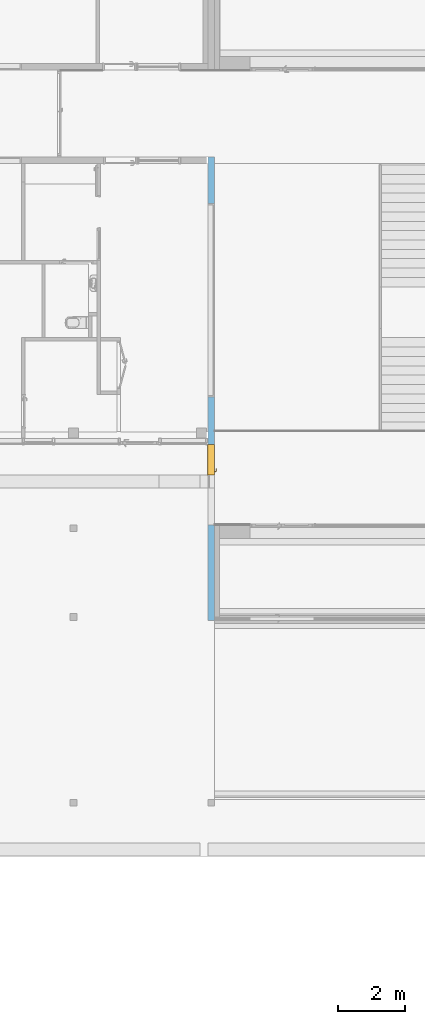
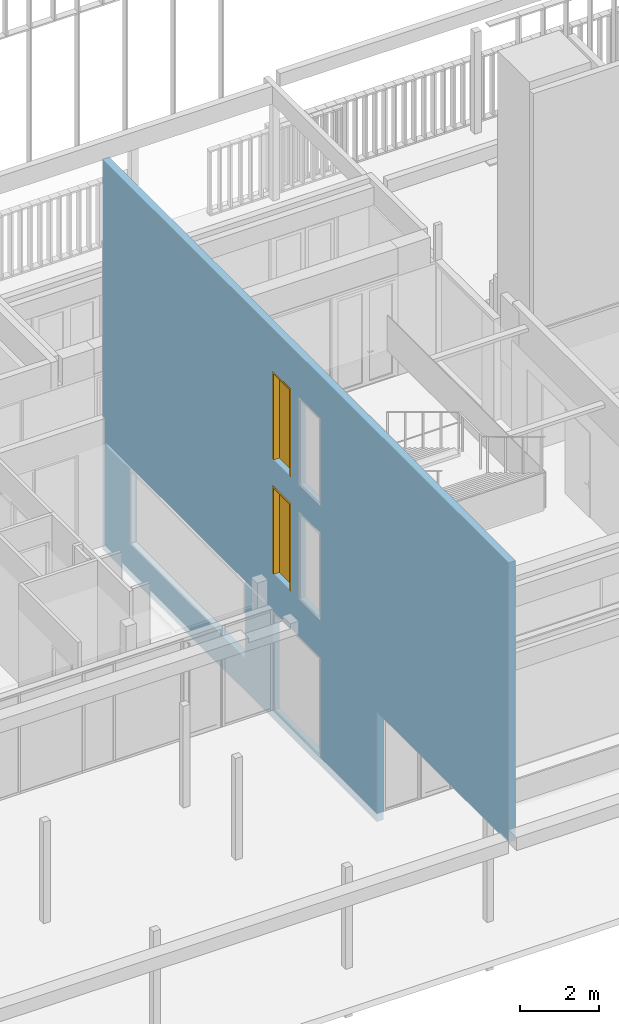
"""IFC2X3 building model written with IfcOpenShell, lengths in centimetres."""

import ifcopenshell
import ifcopenshell.guid

model = None  # the IFC model being written
_history = None  # IfcOwnerHistory: only IFC2X3 demands one
_inside = {}  # id of a spatial element -> (the spatial element, [elements in it])
_under = {}  # id of a project, library or spatial element -> (it, [spatial elements below it])
_declared = {}  # id of a project -> (the project, [libraries it declares])
_typed = {}  # id of a type object -> (the type object, [elements of that type])
_made_of = {}  # id of a material, layer set ... -> (it, [elements and type objects made of it])


def new_model(schema):
    """Start an empty IFC model of exactly this schema.

    Asked for "IFC4X3", IfcOpenShell would pick the latest addendum, in which some entities
    have other attributes; the version numbers below select the first issue.
    IFC2X3 requires an IfcOwnerHistory on every rooted entity: one is made here for all.
    """
    global model, _history
    if schema == "IFC4X3":
        model = ifcopenshell.file(schema_version=(4, 3, 0, 0))
    else:
        model = ifcopenshell.file(schema=schema)
    _inside.clear()
    _under.clear()
    _declared.clear()
    _typed.clear()
    _made_of.clear()
    _history = None
    if model.schema == "IFC2X3":
        org = make("IfcOrganization", Name="unknown")
        user = make(
            "IfcPersonAndOrganization",
            ThePerson=make("IfcPerson", FamilyName="unknown"),
            TheOrganization=org,
        )
        app = make(
            "IfcApplication",
            ApplicationDeveloper=org,
            Version="unknown",
            ApplicationFullName="unknown",
            ApplicationIdentifier="unknown",
        )
        _history = make(
            "IfcOwnerHistory",
            OwningUser=user,
            OwningApplication=app,
            ChangeAction="ADDED",
            CreationDate=0,
        )
    return model


def make(cls, **values):
    """One entity of the class cls with the attributes given. An attribute that is None is left unset."""
    return model.create_entity(
        cls, **{name: value for name, value in values.items() if value is not None}
    )


def entity(cls, *values):
    """Any entity or typed value of the class cls, its attributes in the order of the schema. None: left unset."""
    e = model.create_entity(cls)
    for i, value in enumerate(values):
        if value is not None:
            e[i] = value
    return e


def rooted(cls, **values):
    """An entity with a GlobalId (a new one), such as an element, a storey or a relation."""
    return make(cls, GlobalId=ifcopenshell.guid.new(), OwnerHistory=_history, **values)


def si_unit(unit_type, name, prefix=None):
    """IfcSIUnit, for example si_unit("LENGTHUNIT", "METRE", prefix="MILLI")."""
    return make("IfcSIUnit", UnitType=unit_type, Prefix=prefix, Name=name)


def converted_unit(unit_type, name, factor, base, dimensions=None, offset=None):
    """IfcConversionBasedUnit, such as the inch: factor (a typed value) times the base unit."""
    return make(
        "IfcConversionBasedUnit"
        if offset is None
        else "IfcConversionBasedUnitWithOffset",
        ConversionOffset=offset,
        Dimensions=None
        if dimensions is None
        else entity("IfcDimensionalExponents", *dimensions),
        UnitType=unit_type,
        Name=name,
        ConversionFactor=make(
            "IfcMeasureWithUnit", ValueComponent=factor, UnitComponent=base
        ),
    )


def derived_unit(unit_type, elements):
    """IfcDerivedUnit: a product of units, each with its exponent."""
    return make(
        "IfcDerivedUnit",
        Elements=[
            make("IfcDerivedUnitElement", Unit=unit, Exponent=power)
            for unit, power in elements
        ],
        UnitType=unit_type,
    )


def assignment(units):
    """IfcUnitAssignment: the units of a project."""
    return None if units is None else make("IfcUnitAssignment", Units=units)


def point(xyz):
    """IfcCartesianPoint."""
    return None if xyz is None else make("IfcCartesianPoint", Coordinates=xyz)


def direction(xyz):
    """IfcDirection."""
    return None if xyz is None else make("IfcDirection", DirectionRatios=xyz)


def frame(location, z_axis=None, x_axis=None):
    """IfcAxis2Placement3D, a coordinate frame: its origin and axes. An axis left out is left unset."""
    return make(
        "IfcAxis2Placement3D",
        Location=point(location),
        Axis=direction(z_axis),
        RefDirection=direction(x_axis),
    )


def frame_2d(location, x_axis=None):
    """IfcAxis2Placement2D, a coordinate frame in the plane: its origin and x axis."""
    return make(
        "IfcAxis2Placement2D", Location=point(location), RefDirection=direction(x_axis)
    )


def origin():
    """The frame at (0, 0, 0) with its axes left unset."""
    return frame((0.0, 0.0, 0.0))


def place(relative_to, where):
    """IfcLocalPlacement: puts the frame where relative to a parent placement (None: the world)."""
    return make(
        "IfcLocalPlacement", PlacementRelTo=relative_to, RelativePlacement=where
    )


def context(
    kind, dimensions, precision=None, world=None, true_north=None, identifier=None
):
    """IfcGeometricRepresentationContext, for example the 3D "Model" context."""
    return make(
        "IfcGeometricRepresentationContext",
        ContextIdentifier=identifier,
        ContextType=kind,
        CoordinateSpaceDimension=dimensions,
        Precision=precision,
        WorldCoordinateSystem=world,
        TrueNorth=true_north,
    )


def subcontext(parent, identifier, kind, view, scale=None):
    """IfcGeometricRepresentationSubContext, for example "Body" below "Model"."""
    return make(
        "IfcGeometricRepresentationSubContext",
        ContextIdentifier=identifier,
        ContextType=kind,
        ParentContext=parent,
        TargetScale=scale,
        TargetView=view,
    )


def project(units=None, contexts=None):
    """IfcProject with its units and contexts."""
    return rooted(
        "IfcProject",
        Name="project",
        RepresentationContexts=contexts,
        UnitsInContext=assignment(units),
    )


def spatial(cls, under=None, at=None, **own):
    """A site, building, storey or space (cls), placed at a placement, below another one or the project."""
    s = rooted(cls, ObjectPlacement=at, **own)
    if under is not None:
        _under.setdefault(under.id(), (under, []))[1].append(s)
    return s


def profile(cls, at=None, kind="AREA", **sizes):
    """A parametric profile (cls). Its sizes go by their IFC names, for example OverallWidth=200.0."""
    return make(cls, ProfileType=kind, Position=at, **sizes)


def rectangle(**sizes):
    """IfcRectangleProfileDef."""
    return profile("IfcRectangleProfileDef", **sizes)


def extrude(swept, where, along, depth):
    """IfcExtrudedAreaSolid: the profile swept, set in the frame where, extruded along a direction by depth."""
    return make(
        "IfcExtrudedAreaSolid",
        SweptArea=swept,
        Position=where,
        ExtrudedDirection=direction(along),
        Depth=depth,
    )


def faces_of(points, faces, orient=None, outer=None):
    """IfcFace entities. A face is a list of loops; a loop is a list of indices into points, from 0.

    orient and outer hold one flag for each loop. By default every Orientation is true, the
    first loop of a face is its IfcFaceOuterBound and the others are IfcFaceBound.
    """
    made = []
    for i, loops in enumerate(faces):
        bounds = []
        for j, loop in enumerate(loops):
            is_outer = j == 0 if outer is None else outer[i][j]
            bounds.append(
                make(
                    "IfcFaceOuterBound" if is_outer else "IfcFaceBound",
                    Bound=make("IfcPolyLoop", Polygon=[points[k] for k in loop]),
                    Orientation=True if orient is None else orient[i][j],
                )
            )
        made.append(make("IfcFace", Bounds=bounds))
    return made


def faceted_brep(points, faces, orient=None, outer=None, voids=None):
    """IfcFacetedBrep: a solid bounded by flat faces; with voids (closed shells), ...WithVoids."""
    shared = [point(p) for p in points]
    hull = make("IfcClosedShell", CfsFaces=faces_of(shared, faces, orient, outer))
    if voids is None:
        return make("IfcFacetedBrep", Outer=hull)
    return make(
        "IfcFacetedBrepWithVoids",
        Outer=hull,
        Voids=[
            make(cls, CfsFaces=faces_of(shared, fs, o, b)) for cls, fs, o, b in voids
        ],
    )


def shape(context_of_items, identifier, shape_type, items):
    """IfcShapeRepresentation: the items that make up one representation, for example the "Body"."""
    return make(
        "IfcShapeRepresentation",
        ContextOfItems=context_of_items,
        RepresentationIdentifier=identifier,
        RepresentationType=shape_type,
        Items=items,
    )


def source(mapping_origin, context_of_items, identifier, shape_type, items):
    """IfcRepresentationMap: a shape defined once, which mapped items show again and again."""
    return make(
        "IfcRepresentationMap",
        MappingOrigin=mapping_origin,
        MappedRepresentation=shape(context_of_items, identifier, shape_type, items),
    )


def transform(
    local_origin,
    x_axis=None,
    y_axis=None,
    z_axis=None,
    scale=None,
    scale2=None,
    scale3=None,
    uniform=True,
):
    """IfcCartesianTransformationOperator3D, or its non-uniform kind. x_axis, y_axis, z_axis: its Axis1, 2, 3."""
    if uniform:
        return make(
            "IfcCartesianTransformationOperator3D",
            Axis1=direction(x_axis),
            Axis2=direction(y_axis),
            LocalOrigin=point(local_origin),
            Scale=scale,
            Axis3=direction(z_axis),
        )
    return make(
        "IfcCartesianTransformationOperator3DnonUniform",
        Axis1=direction(x_axis),
        Axis2=direction(y_axis),
        LocalOrigin=point(local_origin),
        Scale=scale,
        Axis3=direction(z_axis),
        Scale2=scale2,
        Scale3=scale3,
    )


def mapped(mapping_source, mapping_target):
    """IfcMappedItem: shows the shape of a source again, moved by a transform."""
    return make(
        "IfcMappedItem", MappingSource=mapping_source, MappingTarget=mapping_target
    )


def material(Name=None, Category=None):
    """IfcMaterial."""
    return make("IfcMaterial", Name=Name, Category=Category)


def material_list(materials):
    """IfcMaterialList."""
    return make("IfcMaterialList", Materials=materials)


def layer(
    of_material, thickness, ventilated=None, Name=None, Category=None, Priority=None
):
    """IfcMaterialLayer: one layer of a wall or slab, of a material (None: an air gap)."""
    return make(
        "IfcMaterialLayer",
        Material=of_material,
        LayerThickness=thickness,
        IsVentilated=ventilated,
        Name=Name,
        Category=Category,
        Priority=Priority,
    )


def layer_set(layers, Name=None):
    """IfcMaterialLayerSet."""
    return make("IfcMaterialLayerSet", MaterialLayers=layers, LayerSetName=Name)


def made_of(thing, what):
    """Note that an element or type object is made of a material, layer set ...; save() writes the relation."""
    if what is not None:
        _made_of.setdefault(what.id(), (what, []))[1].append(thing)
    return thing


def type_object(cls, material=None, **own):
    """A type object (cls), such as IfcWallType, which elements share."""
    return made_of(rooted(cls, **own), material)


def type_shapes(of_type, sources):
    """Give a type object the sources (RepresentationMaps) that its elements show as mapped items."""
    of_type.RepresentationMaps = sources


def element(
    cls,
    number,
    at=None,
    inside=None,
    cuts=None,
    type_object=None,
    material=None,
    context=None,
    identifier="Body",
    shape_type=None,
    held_by="IfcProductDefinitionShape",
    body=None,
    shapes=None,
    **own,
):
    """One element of the class cls, such as IfcWall. Its Tag is "e" and its number.

    at: its placement. inside: the storey or other place that contains it. cuts: it is an
    opening in that element (IfcRelVoidsElement). A single representation is given by context,
    identifier, shape_type and body (its items); several are given by shapes. held_by: the class
    of the entity that holds the representations. save() writes the other relations.
    """
    e = rooted(cls, Tag="e%d" % number, ObjectPlacement=at, **own)
    if body is not None:
        shapes = [shape(context, identifier, shape_type, body)]
    if shapes is not None:
        e.Representation = make(held_by, Representations=shapes)
    if inside is not None:
        _inside.setdefault(inside.id(), (inside, []))[1].append(e)
    if cuts is not None:
        rooted(
            "IfcRelVoidsElement", RelatingBuildingElement=cuts, RelatedOpeningElement=e
        )
    if type_object is not None:
        _typed.setdefault(type_object.id(), (type_object, []))[1].append(e)
    return made_of(e, material)


def fill(opening, filler):
    """IfcRelFillsElement: the door or window that sits in an opening."""
    return rooted(
        "IfcRelFillsElement",
        RelatingOpeningElement=opening,
        RelatedBuildingElement=filler,
    )


def aggregate(whole, parts):
    """IfcRelAggregates: a whole, such as a stair, and the parts it consists of."""
    return rooted("IfcRelAggregates", RelatingObject=whole, RelatedObjects=parts)


def save(model, path):
    """Write the relations noted so far, then the file.

    IfcRelAggregates (storeys below a building ...), IfcRelContainedInSpatialStructure (elements
    in a storey), IfcRelDefinesByType, IfcRelAssociatesMaterial and IfcRelDeclares: one each for
    every whole, place, type object, material and project.
    """
    for whole, parts in _under.values():
        aggregate(whole, parts)
    for where, things in _inside.values():
        rooted(
            "IfcRelContainedInSpatialStructure",
            RelatedElements=things,
            RelatingStructure=where,
        )
    for kind, things in _typed.values():
        rooted("IfcRelDefinesByType", RelatedObjects=things, RelatingType=kind)
    for what, things in _made_of.values():
        rooted("IfcRelAssociatesMaterial", RelatedObjects=things, RelatingMaterial=what)
    for by, libraries in _declared.values():
        rooted("IfcRelDeclares", RelatingContext=by, RelatedDefinitions=libraries)
    model.write(path)


model = new_model("IFC2X3")

# Units and contexts
model_context = context("Model", 3, precision=0.001, world=origin(), true_north=direction((6.12303176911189e-17, 1.0)))
body_context = subcontext(model_context, "Body", "Model", "MODEL_VIEW")
ifc_project = project(units=[si_unit("LENGTHUNIT", "METRE", prefix="CENTI"), si_unit("AREAUNIT", "SQUARE_METRE"), si_unit("VOLUMEUNIT", "CUBIC_METRE"), converted_unit("PLANEANGLEUNIT", "DEGREE", entity("IfcRatioMeasure", 0.0174532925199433), si_unit("PLANEANGLEUNIT", "RADIAN"), dimensions=[0, 0, 0, 0, 0, 0, 0]), si_unit("MASSUNIT", "GRAM", prefix="KILO"), derived_unit("MASSDENSITYUNIT", [(si_unit("MASSUNIT", "GRAM", prefix="KILO"), 1), (si_unit("LENGTHUNIT", "METRE"), -3)]), si_unit("TIMEUNIT", "SECOND"), si_unit("FREQUENCYUNIT", "HERTZ"), si_unit("THERMODYNAMICTEMPERATUREUNIT", "DEGREE_CELSIUS"), derived_unit("THERMALTRANSMITTANCEUNIT", [(si_unit("MASSUNIT", "GRAM", prefix="KILO"), 1), (si_unit("THERMODYNAMICTEMPERATUREUNIT", "KELVIN"), -1), (si_unit("TIMEUNIT", "SECOND"), -3)]), derived_unit("VOLUMETRICFLOWRATEUNIT", [(si_unit("LENGTHUNIT", "METRE"), 3), (si_unit("TIMEUNIT", "SECOND"), -1)]), si_unit("ELECTRICCURRENTUNIT", "AMPERE"), si_unit("ELECTRICVOLTAGEUNIT", "VOLT"), si_unit("POWERUNIT", "WATT"), si_unit("FORCEUNIT", "NEWTON", prefix="KILO"), si_unit("ILLUMINANCEUNIT", "LUX"), si_unit("LUMINOUSFLUXUNIT", "LUMEN"), si_unit("LUMINOUSINTENSITYUNIT", "CANDELA"), derived_unit("USERDEFINED", [(si_unit("MASSUNIT", "GRAM", prefix="KILO"), -1), (si_unit("LENGTHUNIT", "METRE"), -2), (si_unit("TIMEUNIT", "SECOND"), 3), (si_unit("LUMINOUSFLUXUNIT", "LUMEN"), 1)]), derived_unit("LINEARVELOCITYUNIT", [(si_unit("LENGTHUNIT", "METRE"), 1), (si_unit("TIMEUNIT", "SECOND"), -1)]), si_unit("PRESSUREUNIT", "PASCAL"), derived_unit("USERDEFINED", [(si_unit("LENGTHUNIT", "METRE"), -2), (si_unit("MASSUNIT", "GRAM", prefix="KILO"), 1), (si_unit("TIMEUNIT", "SECOND"), -2)])], contexts=[model_context])

# Site, building, storey
site_placement = place(None, frame((-2781.94577612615, 7442.24238424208, 0.0)))
site = spatial("IfcSite", under=ifc_project, at=site_placement, Name="Default", CompositionType="ELEMENT")
building_placement = place(site_placement, origin())
building = spatial("IfcBuilding", under=site, at=building_placement, CompositionType="ELEMENT")
storey_1_placement = place(building_placement, origin())
storey_1 = spatial("IfcBuildingStorey", under=building, at=storey_1_placement, Name="N00 - COO", CompositionType="ELEMENT", Elevation=0.0)

# Wall, openings
ifc_material_1 = material(Name="01 - Maçonnerie")
ifc_layer = layer(ifc_material_1, 20.0)
ifc_layer_set = layer_set([ifc_layer], Name="Mur de base:04 - Structure - béton - 20cm")
wall_type = type_object("IfcWallType", Name="Mur de base:04 - Structure - béton - 20cm", PredefinedType="STANDARD", material=ifc_layer_set)
wall_placement = place(building_placement, frame((-4777.99987760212, -3140.31349958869, -26.0), z_axis=(0.0, 0.0, 1.0), x_axis=(0.0, 1.0, 0.0)))
wall = element("IfcWall", 1, at=wall_placement, inside=storey_1, type_object=wall_type, Name="Mur de base:04 - Structure - béton - 20cm", ObjectType="Mur de base:04 - Structure - béton - 20cm", context=body_context, shape_type="Brep", body=[
    faceted_brep([(1190.23446594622, -10.0, 332.0), (1190.23446594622, -10.0, 26.0), (950.156932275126, -10.0, 26.0), (950.156932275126, -10.0, 332.0), (1060.19064453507, -10.0, 1070.0), (1060.19064453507, -10.0, 800.0), (950.156932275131, -10.0, 800.0), (950.15693227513, -10.0, 1070.0), (950.15693227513, -10.0, 448.0), (950.15693227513, -10.0, 718.0), (1060.19064453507, -10.0, 718.0), (1060.19064453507, -10.0, 448.0), (1332.23446594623, -10.0, 101.0), (1332.23446594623, -10.0, 332.0), (1911.46036523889, -10.0, 332.0), (1911.46036523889, -10.0, 101.0), (1190.33446594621, -10.0, 1070.0), (1190.33446594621, -10.0, 800.0), (1100.33446594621, -10.0, 800.0), (1100.33446594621, -10.0, 1070.0), (1190.23446594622, -10.0, 718.0), (1190.23446594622, -10.0, 448.0), (1100.23446594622, -10.0, 448.0), (1100.23446594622, -10.0, 718.0), (665.156932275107, -10.0, 0.0), (684.156932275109, -10.0, 0.0), (2050.0, -10.0, 0.0), (2050.0, -10.0, 417.0), (2050.0, -10.0, 448.0), (2050.0, -10.0, 769.0), (2050.0, -10.0, 800.0), (2050.0, -10.0, 1197.0), (2050.0, -10.0, 1202.0), (1256.17297987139, -10.0, 1202.0), (146.0, -10.0, 1202.0), (130.0, -10.0, 1202.0), (110.0, -10.0, 1202.0), (90.0, -10.0, 1202.0), (0.0, -10.0, 1202.0), (0.0, -10.0, 339.0), (665.156932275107, -10.0, 339.0), (1190.23446594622, 10.0, 26.0), (1190.23446594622, 10.0, 332.0), (950.156932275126, 10.0, 332.0), (950.156932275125, 10.0, 26.0), (950.15693227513, 10.0, 718.0), (950.15693227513, 10.0, 448.0), (1060.19064453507, 10.0, 448.0), (1060.19064453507, 10.0, 718.0), (1060.19064453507, 10.0, 800.0), (1060.19064453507, 10.0, 1070.0), (950.156932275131, 10.0, 1070.0), (950.15693227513, 10.0, 800.0), (1332.23446594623, 10.0, 332.0), (1332.23446594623, 10.0, 101.0), (1911.46036523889, 10.0, 101.0), (1911.46036523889, 10.0, 332.0), (2030.31349968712, 10.0, 332.0), (2030.31349968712, 10.0, 339.0), (1235.23446594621, 10.0, 339.0), (1228.9244659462, 10.0, 339.0), (1228.9244659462, 10.0, 332.0), (1190.33446594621, 10.0, 800.0), (1190.33446594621, 10.0, 1070.0), (1100.33446594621, 10.0, 1070.0), (1100.33446594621, 10.0, 800.0), (1190.23446594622, 10.0, 448.0), (1190.23446594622, 10.0, 531.5), (1190.23446594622, 10.0, 718.0), (1100.23446594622, 10.0, 718.0), (1100.23446594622, 10.0, 448.0), (2050.0, 10.0, 0.0), (684.156932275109, 10.0, 0.0), (665.156932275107, 10.0, 0.0), (665.156932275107, 10.0, 339.0), (0.0, 10.0, 339.0), (0.0, 10.0, 1202.0), (1190.23446594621, 10.0, 1202.0), (1210.23446594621, 10.0, 1202.0), (1256.17297987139, 10.0, 1202.0), (2050.0, 10.0, 1202.0), (2050.0, 10.0, 1197.0), (2050.0, 10.0, 1172.0), (2050.0, 10.0, 1126.0), (1332.23446594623, -8.49999999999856, 332.0), (1911.46036523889, -8.49999999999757, 332.0), (2030.31349968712, -8.49999999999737, 339.0), (1228.9244659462, -8.49999999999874, 339.0), (2030.31349968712, -8.49999999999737, 332.0), (1228.9244659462, -8.49999999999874, 332.0)], [[[0, 1, 2, 3], [4, 5, 6, 7], [8, 9, 10, 11], [12, 13, 14, 15], [16, 17, 18, 19], [20, 21, 22, 23], [24, 25, 26, 27, 28, 29, 30, 31, 32, 33, 34, 35, 36, 37, 38, 39, 40]], [[41, 42, 43, 44], [45, 46, 47, 48], [49, 50, 51, 52], [53, 54, 55, 56, 57, 58, 59, 60, 61], [62, 63, 64, 65], [66, 67, 68, 69, 70], [71, 72, 73, 74, 75, 76, 77, 78, 79, 80, 81, 82, 83]], [[41, 1, 0, 42]], [[42, 0, 3, 43]], [[2, 44, 43, 3]], [[1, 41, 44, 2]], [[8, 46, 45, 9]], [[9, 45, 48, 10]], [[47, 11, 10, 48]], [[11, 47, 46, 8]], [[49, 5, 4, 50]], [[50, 4, 7, 51]], [[6, 52, 51, 7]], [[5, 49, 52, 6]], [[12, 54, 53, 84, 13]], [[14, 13, 84, 85]], [[55, 15, 14, 85, 56]], [[54, 12, 15, 55]], [[63, 62, 17, 16]], [[64, 63, 16, 19]], [[65, 64, 19, 18]], [[62, 65, 18, 17]], [[86, 87, 60, 59, 58]], [[85, 88, 57, 56]], [[87, 89, 61, 60]], [[87, 86, 88, 85, 84, 89]], [[88, 86, 58, 57]], [[68, 67, 66, 21, 20]], [[69, 68, 20, 23]], [[70, 69, 23, 22]], [[66, 70, 22, 21]], [[26, 25, 24, 73, 72, 71]], [[82, 81, 80, 32, 31, 30, 29, 28, 27, 26, 71, 83]], [[38, 37, 36, 35, 34, 33, 32, 80, 79, 78, 77, 76]], [[39, 38, 76, 75]], [[40, 39, 75, 74]], [[24, 40, 74, 73]], [[89, 84, 53, 61]]], outer=[[False, False, False, False, False, False, True], [False, False, False, False, False, False, True], [True], [True], [True], [True], [True], [True], [True], [True], [True], [True], [True], [True], [True], [True], [True], [True], [True], [True], [True], [True], [True], [True], [True], [True], [True], [True], [True], [True], [True], [True], [True], [True], [True], [True], [True], [True]]),
])
opening_1_placement = place(wall_placement, frame((1190.23446594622, 10.0, 26.0)))
element("IfcOpeningElement", 2, at=opening_1_placement, cuts=wall, Name="châssis intérieur vitré:RDC - Pignon -  châssis intérieur vitré (3.11m):1", ObjectType="Opening", context=body_context, shape_type="SweptSolid", body=[
    extrude(rectangle(XDim=306.0, YDim=240.077533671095, at=frame_2d((153.0, 120.038766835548), x_axis=(1.0, 0.0))), frame((0.0, 0.0, 0.0), z_axis=(0.0, -1.0, 0.0), x_axis=(0.0, 0.0, 1.0)), (0.0, 0.0, 1.0), 20.0),
])
opening_2_placement = place(wall_placement, frame((1060.19064453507, 10.0, 448.0)))
element("IfcOpeningElement", 3, at=opening_2_placement, cuts=wall, Name="châssis intérieur vitré:R+1 - Pignon -  châssis intérieur vitré (2,70m):1", ObjectType="Opening", context=body_context, shape_type="SweptSolid", body=[
    extrude(rectangle(XDim=270.0, YDim=110.033712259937, at=frame_2d((135.0, 55.0168561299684), x_axis=(1.0, 0.0))), frame((0.0, 0.0, 0.0), z_axis=(0.0, -1.0, 0.0), x_axis=(0.0, 0.0, 1.0)), (0.0, 0.0, 1.0), 20.0),
])
opening_3_placement = place(wall_placement, frame((1060.19064453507, 10.0, 800.0)))
element("IfcOpeningElement", 4, at=opening_3_placement, cuts=wall, Name="châssis intérieur vitré:R+1 - Pignon -  châssis intérieur vitré (2,70m):1", ObjectType="Opening", context=body_context, shape_type="SweptSolid", body=[
    extrude(rectangle(XDim=270.0, YDim=110.033712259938, at=frame_2d((135.0, 55.0168561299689), x_axis=(1.0, 0.0))), frame((0.0, 0.0, 0.0), z_axis=(0.0, -1.0, 0.0), x_axis=(0.0, 0.0, 1.0)), (0.0, 0.0, 1.0), 20.0),
])
opening_4_placement = place(wall_placement, frame((1332.23446594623, -10.0, 101.0)))
element("IfcOpeningElement", 5, at=opening_4_placement, cuts=wall, Name="châssis intérieur vitré:châssis intérieur vitré bureau asen:1", ObjectType="Opening", context=body_context, shape_type="SweptSolid", body=[
    extrude(rectangle(XDim=231.0, YDim=579.22589929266, at=frame_2d((115.5, 289.61294964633), x_axis=(1.0, 0.0))), frame((0.0, 0.0, 0.0), z_axis=(0.0, 1.0, 0.0), x_axis=(0.0, 0.0, 1.0)), (0.0, 0.0, 1.0), 20.0),
])
opening_5_placement = place(wall_placement, frame((1190.33446594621, 10.0, 800.0)))
opening_5 = element("IfcOpeningElement", 6, at=opening_5_placement, cuts=wall, Name="Int. Simple:PP simple accès technique coursive ext (0.93m x 2.50m) 2:1", ObjectType="Opening", context=body_context, shape_type="SweptSolid", body=[
    extrude(rectangle(XDim=270.000000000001, YDim=89.9999999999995, at=frame_2d((135.000000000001, 44.9999999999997), x_axis=(1.0, 0.0))), frame((0.0, 0.0, 0.0), z_axis=(0.0, -1.0, 0.0), x_axis=(0.0, 0.0, 1.0)), (0.0, 0.0, 1.0), 20.0),
])
opening_6_placement = place(wall_placement, frame((1190.23446594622, 10.0, 448.0)))
opening_6 = element("IfcOpeningElement", 7, at=opening_6_placement, cuts=wall, Name="Int. Simple:PP simple accès technique coursive ext (0.93m x 2.50m) 2:1", ObjectType="Opening", context=body_context, shape_type="SweptSolid", body=[
    extrude(rectangle(XDim=270.000000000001, YDim=89.9999999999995, at=frame_2d((135.000000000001, 44.9999999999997), x_axis=(1.0, 0.0))), frame((0.0, 0.0, 0.0), z_axis=(0.0, -1.0, 0.0), x_axis=(0.0, 0.0, 1.0)), (0.0, 0.0, 1.0), 20.0),
])

# Storey
storey_2_placement = place(building_placement, frame((0.0, 0.0, 774.0)))
storey_2 = spatial("IfcBuildingStorey", under=building, at=storey_2_placement, Name="TR - N02 - ARCH", CompositionType="ELEMENT", Elevation=774.0)

# Door
ifc_material_2 = material(Name="Finition Peinture - Blanc satiné")
ifc_material_3 = material(Name="Bois - Panneau de porte")
ifc_material_4 = material(Name="Bois - Cadre de porte")
ifc_material_list_1 = material_list([ifc_material_2, ifc_material_3, ifc_material_4])
ifc_material_list_2 = material_list([ifc_material_2, ifc_material_3, ifc_material_4])
door_style = type_object("IfcDoorStyle", Name="PP simple accès technique coursive ext (0.93m x 2.50m) 2", ConstructionType="NOTDEFINED", OperationType="SINGLE_SWING_LEFT", ParameterTakesPrecedence=False, Sizeable=False, material=ifc_material_list_2)
shared_shape = source(origin(), body_context, "Body", "Brep", [
    faceted_brep([(10.5352761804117, -0.500000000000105, 86.6003983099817), (11.5000000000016, -0.500000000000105, 87.0), (11.5000000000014, -0.500000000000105, 108.0), (10.5352761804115, -0.500000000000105, 108.399601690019), (9.50000000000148, -0.500000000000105, 108.535898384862), (8.4647238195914, -0.500000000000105, 108.399601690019), (7.5000000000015, -0.500000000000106, 108.0), (7.50000000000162, -0.500000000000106, 87.0), (8.46472381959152, -0.500000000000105, 86.6003983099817), (9.5000000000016, -0.500000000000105, 86.464101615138), (10.5352761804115, 0.0, 108.399601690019), (11.5000000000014, 0.0, 108.0), (11.5000000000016, 0.0, 87.0), (10.5352761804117, 0.0, 86.6003983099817), (9.5000000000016, 0.0, 86.464101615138), (8.46472381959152, 0.0, 86.6003983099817), (7.50000000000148, 0.0, 87.0), (7.5000000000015, 0.0, 108.0), (8.4647238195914, 0.0, 108.399601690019), (9.50000000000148, 0.0, 108.535898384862)], [[[0, 1, 2, 3, 4, 5, 6, 7, 8, 9]], [[10, 11, 12, 13, 14, 15, 16, 17, 18, 19]], [[16, 15, 8, 7]], [[8, 15, 14, 9]], [[14, 13, 0, 9]], [[13, 12, 1, 0]], [[2, 1, 12, 11]], [[11, 10, 3, 2]], [[3, 10, 19, 4]], [[19, 18, 5, 4]], [[18, 17, 6, 5]], [[7, 6, 17, 16]]]),
    faceted_brep([(10.5352761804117, 4.0, 86.6003983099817), (11.5000000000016, 4.0, 87.0), (11.5000000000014, 4.0, 108.0), (10.5352761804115, 4.0, 108.399601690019), (9.50000000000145, 4.0, 108.535898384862), (8.46472381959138, 4.0, 108.399601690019), (7.50000000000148, 4.0, 108.0), (7.50000000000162, 4.0, 87.0), (8.46472381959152, 4.0, 86.6003983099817), (9.50000000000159, 4.0, 86.464101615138), (10.5352761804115, 4.49999999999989, 108.399601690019), (11.5000000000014, 4.49999999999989, 108.0), (11.5000000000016, 4.49999999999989, 87.0), (10.5352761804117, 4.49999999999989, 86.6003983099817), (9.50000000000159, 4.49999999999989, 86.464101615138), (8.46472381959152, 4.49999999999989, 86.6003983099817), (7.50000000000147, 4.49999999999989, 87.0), (7.50000000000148, 4.49999999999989, 108.0), (8.46472381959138, 4.49999999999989, 108.399601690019), (9.50000000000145, 4.49999999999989, 108.535898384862)], [[[0, 1, 2, 3, 4, 5, 6, 7, 8, 9]], [[10, 11, 12, 13, 14, 15, 16, 17, 18, 19]], [[11, 10, 3, 2]], [[3, 10, 19, 4]], [[19, 18, 5, 4]], [[18, 17, 6, 5]], [[7, 6, 17, 16]], [[16, 15, 8, 7]], [[8, 15, 14, 9]], [[14, 13, 0, 9]], [[13, 12, 1, 0]], [[2, 1, 12, 11]]]),
    faceted_brep([(9.2974701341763, -0.500000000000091, 100.778044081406), (9.70252986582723, -0.500000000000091, 100.778044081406), (10.1000000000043, -0.500000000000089, 100.699999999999), (10.1000000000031, -0.500000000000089, 99.3000000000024), (9.70252986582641, -0.500000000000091, 99.2219559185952), (9.29747013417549, -0.500000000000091, 99.221955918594), (8.89999999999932, -0.500000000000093, 99.2999999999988), (8.89999999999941, -0.500000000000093, 100.7), (8.89999999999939, -3.26509507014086, 100.7), (9.29747013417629, -3.10045754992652, 100.778044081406), (10.9023585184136, -4.70534593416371, 100.778044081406), (11.0701397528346, -4.30028620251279, 100.778044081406), (9.70252986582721, -2.93267631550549, 100.778044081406), (10.1000000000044, -2.76803879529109, 100.7), (10.1000000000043, -2.76803879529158, 99.3000000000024), (9.70252986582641, -2.93267631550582, 99.2219559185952), (11.0701397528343, -4.30028620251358, 99.2219559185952), (10.9023585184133, -4.70534593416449, 99.221955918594), (9.2974701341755, -3.10045754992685, 99.221955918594), (8.89999999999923, -3.26509507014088, 99.2999999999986), (10.7377209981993, -5.10281606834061, 100.7), (11.2347772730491, -3.90281606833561, 100.7), (11.2347772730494, -3.90281606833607, 99.3000000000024), (10.7377209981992, -5.10281606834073, 99.2999999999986), (19.5018640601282, -5.1028160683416, 99.2999999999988), (19.5018640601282, -4.70534593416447, 99.221955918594), (19.5018640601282, -4.30028620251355, 99.2219559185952), (19.5018640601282, -3.90281606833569, 99.3000000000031), (19.5018640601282, -3.90281606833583, 100.7), (19.5018640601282, -4.30028620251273, 100.778044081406), (19.5018640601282, -4.70534593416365, 100.778044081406), (19.5018640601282, -5.10281606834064, 100.699999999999), (14.7307697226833, -5.10281606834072, 100.7), (15.2860019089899, -4.5028160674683, 100.78786867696), (15.3683206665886, -3.9028160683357, 100.7), (15.3683206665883, -3.90281606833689, 99.3000000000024), (15.2860018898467, -4.50281607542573, 99.2121313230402), (14.7307700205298, -5.10281606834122, 99.2999999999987)], [[[0, 1, 2, 3, 4, 5, 6, 7]], [[8, 9, 0, 7]], [[9, 10, 11, 12, 1, 0]], [[12, 13, 2, 1]], [[3, 2, 13, 14]], [[14, 15, 4, 3]], [[15, 16, 17, 18, 5, 4]], [[18, 19, 6, 5]], [[7, 6, 19, 8]], [[20, 10, 9, 8]], [[11, 21, 13, 12]], [[14, 13, 21, 22]], [[22, 16, 15, 14]], [[17, 23, 19, 18]], [[8, 19, 23, 20]], [[24, 25, 26, 27, 28, 29, 30, 31]], [[32, 30, 33]], [[31, 30, 32]], [[10, 20, 32]], [[33, 34, 11]], [[21, 11, 34]], [[34, 29, 28]], [[30, 29, 33]], [[29, 34, 33]], [[10, 32, 33]], [[10, 33, 11]], [[22, 21, 34, 28, 27, 35]], [[35, 26, 36]], [[37, 36, 25]], [[22, 35, 16]], [[35, 27, 26]], [[24, 37, 25]], [[23, 17, 37]], [[37, 17, 36]], [[17, 16, 36]], [[16, 35, 36]], [[25, 36, 26]], [[20, 23, 37, 24, 31, 32]]]),
    faceted_brep([(9.29747013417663, 4.49999999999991, 100.778044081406), (8.89999999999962, 4.4999999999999, 100.7), (8.89999999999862, 4.4999999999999, 99.2999999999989), (9.29747013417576, 4.49999999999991, 99.221955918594), (9.70252986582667, 4.49999999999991, 99.2219559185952), (10.1000000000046, 4.49999999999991, 99.3000000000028), (10.1000000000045, 4.49999999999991, 100.7), (9.70252986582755, 4.49999999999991, 100.778044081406), (10.1000000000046, 6.7485204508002, 99.3000000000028), (10.1000000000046, 6.74852045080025, 100.7), (9.70252986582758, 6.91315797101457, 100.778044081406), (11.0838906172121, 8.29451872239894, 100.778044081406), (10.916109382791, 8.69957845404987, 100.778044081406), (9.29747013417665, 7.0809392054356, 100.778044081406), (8.89999999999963, 7.24557672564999, 100.7), (8.89999999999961, 7.2455767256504, 99.2999999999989), (9.29747013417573, 7.08093920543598, 99.221955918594), (10.9161093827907, 8.69957845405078, 99.221955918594), (11.0838906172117, 8.29451872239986, 99.2219559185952), (9.70252986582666, 6.91315797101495, 99.2219559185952), (11.2485281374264, 7.89704858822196, 99.3000000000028), (11.2485281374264, 7.89704858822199, 100.7), (10.7514718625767, 9.09704858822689, 100.7), (10.751471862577, 9.0970485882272, 99.2999999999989), (19.504578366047, 7.89704858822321, 99.3000000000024), (19.504578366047, 8.29451872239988, 99.2219559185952), (19.504578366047, 8.6995784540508, 99.221955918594), (19.504578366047, 9.09704858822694, 99.2999999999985), (19.504578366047, 9.09704858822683, 100.7), (19.504578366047, 8.69957845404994, 100.778044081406), (19.504578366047, 8.29451872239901, 100.778044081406), (19.504578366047, 7.89704858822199, 100.7), (15.3765520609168, 7.89704858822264, 99.3000000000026), (15.3765532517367, 7.89704858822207, 100.7), (15.294234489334, 8.49704858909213, 100.78786867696), (14.7445205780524, 9.09704858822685, 100.7), (14.7445204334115, 9.09704858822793, 99.2999999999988), (15.2942345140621, 8.49704858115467, 99.2121313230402)], [[[0, 1, 2, 3, 4, 5, 6, 7]], [[6, 5, 8, 9]], [[9, 10, 7, 6]], [[10, 11, 12, 13, 0, 7]], [[13, 14, 1, 0]], [[2, 1, 14, 15]], [[15, 16, 3, 2]], [[16, 17, 18, 19, 4, 3]], [[19, 8, 5, 4]], [[9, 8, 20, 21]], [[21, 11, 10, 9]], [[12, 22, 14, 13]], [[15, 14, 22, 23]], [[23, 17, 16, 15]], [[18, 20, 8, 19]], [[24, 25, 26, 27, 28, 29, 30, 31]], [[21, 20, 32, 24, 31, 33]], [[33, 30, 34]], [[35, 34, 29]], [[21, 33, 11]], [[33, 31, 30]], [[28, 35, 29]], [[22, 12, 35]], [[35, 12, 34]], [[12, 11, 34]], [[11, 33, 34]], [[29, 34, 30]], [[22, 35, 28, 27, 36, 23]], [[36, 26, 37]], [[27, 26, 36]], [[17, 23, 36]], [[37, 32, 18]], [[20, 18, 32]], [[32, 25, 24]], [[26, 25, 37]], [[25, 32, 37]], [[17, 36, 37]], [[17, 37, 18]]]),
    faceted_brep([(3.50000000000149, 4.0, 266.5), (86.5000000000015, 4.0, 266.5), (86.5000000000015, 4.0, 0.0), (3.50000000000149, 4.0, 0.0), (3.50000000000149, 0.0, 266.5), (3.50000000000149, 0.0, 0.0), (86.5000000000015, 0.0, 0.0), (86.5000000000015, 0.0, 266.5)], [[[0, 1, 2, 3]], [[4, 5, 6, 7]], [[1, 0, 4, 7]], [[2, 1, 7, 6]], [[3, 2, 6, 5]], [[0, 3, 5, 4]]]),
    faceted_brep([(0.0, 20.0, 0.0), (-1.50000000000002, 20.0, 0.0), (-1.50000000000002, 20.5000000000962, 0.0), (5.0, 20.5000000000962, 0.0), (5.0, 4.0, 0.0), (3.50000000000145, 4.0, 0.0), (3.50000000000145, -0.500000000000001, 0.0), (-1.50000000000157, -0.500000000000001, 0.0), (-1.50000000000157, 0.0, 0.0), (0.0, 0.0, 0.0), (0.0, 20.0, 270.0), (90.0, 20.0, 270.0), (90.0, 20.0, 0.0), (91.4999999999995, 20.0, 0.0), (91.4999999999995, 20.0, 271.500000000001), (-1.50000000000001, 20.0, 271.500000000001), (-1.50000000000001, 20.5000000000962, 271.500000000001), (91.4999999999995, 20.5000000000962, 271.500000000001), (91.4999999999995, 20.5000000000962, 0.0), (85.0, 20.5000000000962, 0.0), (85.0, 20.5000000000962, 265.0), (5.0, 20.5000000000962, 265.0), (5.0, 4.0, 265.0), (85.0, 4.0, 265.0), (85.0, 4.0, 0.0), (86.499999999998, 4.0, 0.0), (86.499999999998, 4.0, 266.5), (3.50000000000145, 4.0, 266.5), (3.50000000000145, -0.500000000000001, 266.5), (86.499999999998, -0.500000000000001, 266.5), (86.499999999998, -0.500000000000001, 0.0), (91.5000000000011, -0.500000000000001, 0.0), (91.5000000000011, -0.500000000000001, 271.500000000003), (-1.50000000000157, -0.500000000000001, 271.500000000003), (-1.50000000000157, 0.0, 271.500000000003), (91.5000000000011, 0.0, 271.500000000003), (91.5000000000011, 0.0, 0.0), (90.0, 0.0, 0.0), (90.0, 0.0, 270.0), (0.0, 0.0, 270.0)], [[[0, 1, 2, 3, 4, 5, 6, 7, 8, 9]], [[1, 0, 10, 11, 12, 13, 14, 15]], [[2, 1, 15, 16]], [[3, 2, 16, 17, 18, 19, 20, 21]], [[3, 21, 22, 4]], [[5, 4, 22, 23, 24, 25, 26, 27]], [[5, 27, 28, 6]], [[7, 6, 28, 29, 30, 31, 32, 33]], [[8, 7, 33, 34]], [[9, 8, 34, 35, 36, 37, 38, 39]], [[0, 9, 39, 10]], [[11, 38, 37, 12]], [[12, 37, 36, 31, 30, 25, 24, 19, 18, 13]], [[17, 14, 13, 18]], [[23, 20, 19, 24]], [[29, 26, 25, 30]], [[35, 32, 31, 36]], [[10, 39, 38, 11]], [[16, 15, 14, 17]], [[22, 21, 20, 23]], [[28, 27, 26, 29]], [[34, 33, 32, 35]]]),
])
type_shapes(door_style, [shared_shape])
door_1_placement = place(opening_5_placement, frame((-90.0, -20.0, 0.0)))
door_1 = element("IfcDoor", 8, at=door_1_placement, inside=storey_2, type_object=door_style, material=ifc_material_list_1, Name="Int. Simple:PP simple accès technique coursive ext (0.93m x 2.50m) 2", ObjectType="Int. Simple:PP simple accès technique coursive ext (0.93m x 2.50m) 2", OverallHeight=270.000000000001, OverallWidth=89.9999999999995, context=body_context, shape_type="MappedRepresentation", body=[
    mapped(shared_shape, transform((0.0, 0.0, 0.0), scale=1.0)),
])

fill(opening_5, door_1)

# Storey
storey_3_placement = place(building_placement, frame((0.0, 0.0, 422.0)))
storey_3 = spatial("IfcBuildingStorey", under=building, at=storey_3_placement, Name="Toiture - Cuisine", CompositionType="ELEMENT", Elevation=421.999999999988)

# Door
ifc_material_list_3 = material_list([ifc_material_2, ifc_material_3, ifc_material_4])
door_2_placement = place(opening_6_placement, frame((-90.0, -20.0, 0.0)))
door_2 = element("IfcDoor", 9, at=door_2_placement, inside=storey_3, type_object=door_style, material=ifc_material_list_3, Name="Int. Simple:PP simple accès technique coursive ext (0.93m x 2.50m) 2", ObjectType="Int. Simple:PP simple accès technique coursive ext (0.93m x 2.50m) 2", OverallHeight=270.000000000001, OverallWidth=89.9999999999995, context=body_context, shape_type="MappedRepresentation", body=[
    mapped(shared_shape, transform((0.0, 0.0, 0.0), scale=1.0)),
])

fill(opening_6, door_2)

save(model, "model.ifc")
